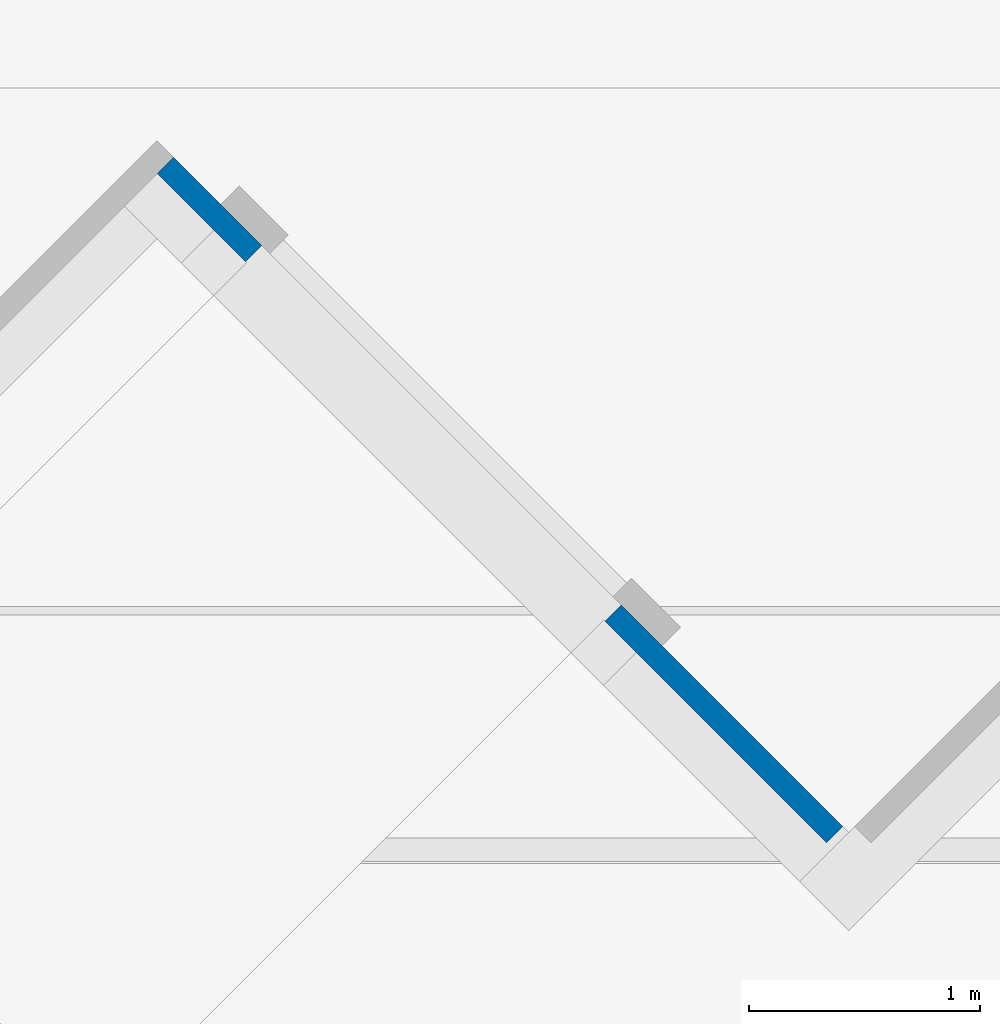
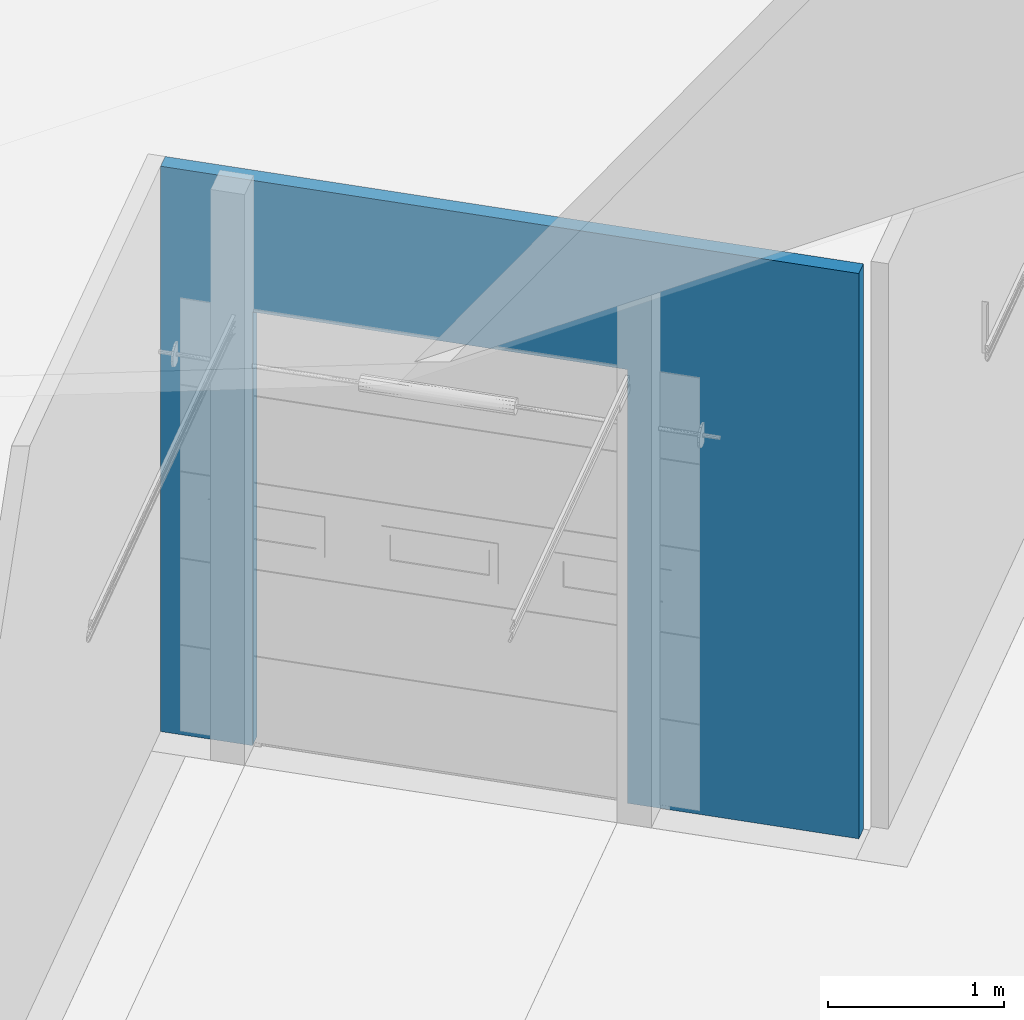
# One storey, part 26 of 64: 1 wall, 1 opening.
"""IFC2X3 building model written with IfcOpenShell, lengths in millimetres."""

import ifcopenshell
import ifcopenshell.guid

model = None  # the IFC model being written
_history = None  # IfcOwnerHistory: only IFC2X3 demands one
_inside = {}  # id of a spatial element -> (the spatial element, [elements in it])
_under = {}  # id of a project, library or spatial element -> (it, [spatial elements below it])
_declared = {}  # id of a project -> (the project, [libraries it declares])
_typed = {}  # id of a type object -> (the type object, [elements of that type])
_made_of = {}  # id of a material, layer set ... -> (it, [elements and type objects made of it])


def new_model(schema):
    """Start an empty IFC model of exactly this schema.

    Asked for "IFC4X3", IfcOpenShell would pick the latest addendum, in which some entities
    have other attributes; the version numbers below select the first issue.
    IFC2X3 requires an IfcOwnerHistory on every rooted entity: one is made here for all.
    """
    global model, _history
    if schema == "IFC4X3":
        model = ifcopenshell.file(schema_version=(4, 3, 0, 0))
    else:
        model = ifcopenshell.file(schema=schema)
    _inside.clear()
    _under.clear()
    _declared.clear()
    _typed.clear()
    _made_of.clear()
    _history = None
    if model.schema == "IFC2X3":
        org = make("IfcOrganization", Name="unknown")
        user = make(
            "IfcPersonAndOrganization",
            ThePerson=make("IfcPerson", FamilyName="unknown"),
            TheOrganization=org,
        )
        app = make(
            "IfcApplication",
            ApplicationDeveloper=org,
            Version="unknown",
            ApplicationFullName="unknown",
            ApplicationIdentifier="unknown",
        )
        _history = make(
            "IfcOwnerHistory",
            OwningUser=user,
            OwningApplication=app,
            ChangeAction="ADDED",
            CreationDate=0,
        )
    return model


def make(cls, **values):
    """One entity of the class cls with the attributes given. An attribute that is None is left unset."""
    return model.create_entity(
        cls, **{name: value for name, value in values.items() if value is not None}
    )


def entity(cls, *values):
    """Any entity or typed value of the class cls, its attributes in the order of the schema. None: left unset."""
    e = model.create_entity(cls)
    for i, value in enumerate(values):
        if value is not None:
            e[i] = value
    return e


def rooted(cls, **values):
    """An entity with a GlobalId (a new one), such as an element, a storey or a relation."""
    return make(cls, GlobalId=ifcopenshell.guid.new(), OwnerHistory=_history, **values)


def si_unit(unit_type, name, prefix=None):
    """IfcSIUnit, for example si_unit("LENGTHUNIT", "METRE", prefix="MILLI")."""
    return make("IfcSIUnit", UnitType=unit_type, Prefix=prefix, Name=name)


def converted_unit(unit_type, name, factor, base, dimensions=None, offset=None):
    """IfcConversionBasedUnit, such as the inch: factor (a typed value) times the base unit."""
    return make(
        "IfcConversionBasedUnit"
        if offset is None
        else "IfcConversionBasedUnitWithOffset",
        ConversionOffset=offset,
        Dimensions=None
        if dimensions is None
        else entity("IfcDimensionalExponents", *dimensions),
        UnitType=unit_type,
        Name=name,
        ConversionFactor=make(
            "IfcMeasureWithUnit", ValueComponent=factor, UnitComponent=base
        ),
    )


def derived_unit(unit_type, elements):
    """IfcDerivedUnit: a product of units, each with its exponent."""
    return make(
        "IfcDerivedUnit",
        Elements=[
            make("IfcDerivedUnitElement", Unit=unit, Exponent=power)
            for unit, power in elements
        ],
        UnitType=unit_type,
    )


def assignment(units):
    """IfcUnitAssignment: the units of a project."""
    return None if units is None else make("IfcUnitAssignment", Units=units)


def point(xyz):
    """IfcCartesianPoint."""
    return None if xyz is None else make("IfcCartesianPoint", Coordinates=xyz)


def direction(xyz):
    """IfcDirection."""
    return None if xyz is None else make("IfcDirection", DirectionRatios=xyz)


def frame(location, z_axis=None, x_axis=None):
    """IfcAxis2Placement3D, a coordinate frame: its origin and axes. An axis left out is left unset."""
    return make(
        "IfcAxis2Placement3D",
        Location=point(location),
        Axis=direction(z_axis),
        RefDirection=direction(x_axis),
    )


def frame_2d(location, x_axis=None):
    """IfcAxis2Placement2D, a coordinate frame in the plane: its origin and x axis."""
    return make(
        "IfcAxis2Placement2D", Location=point(location), RefDirection=direction(x_axis)
    )


def origin():
    """The frame at (0, 0, 0) with its axes left unset."""
    return frame((0.0, 0.0, 0.0))


def place(relative_to, where):
    """IfcLocalPlacement: puts the frame where relative to a parent placement (None: the world)."""
    return make(
        "IfcLocalPlacement", PlacementRelTo=relative_to, RelativePlacement=where
    )


def context(
    kind, dimensions, precision=None, world=None, true_north=None, identifier=None
):
    """IfcGeometricRepresentationContext, for example the 3D "Model" context."""
    return make(
        "IfcGeometricRepresentationContext",
        ContextIdentifier=identifier,
        ContextType=kind,
        CoordinateSpaceDimension=dimensions,
        Precision=precision,
        WorldCoordinateSystem=world,
        TrueNorth=true_north,
    )


def subcontext(parent, identifier, kind, view, scale=None):
    """IfcGeometricRepresentationSubContext, for example "Body" below "Model"."""
    return make(
        "IfcGeometricRepresentationSubContext",
        ContextIdentifier=identifier,
        ContextType=kind,
        ParentContext=parent,
        TargetScale=scale,
        TargetView=view,
    )


def project(units=None, contexts=None):
    """IfcProject with its units and contexts."""
    return rooted(
        "IfcProject",
        Name="project",
        RepresentationContexts=contexts,
        UnitsInContext=assignment(units),
    )


def spatial(cls, under=None, at=None, **own):
    """A site, building, storey or space (cls), placed at a placement, below another one or the project."""
    s = rooted(cls, ObjectPlacement=at, **own)
    if under is not None:
        _under.setdefault(under.id(), (under, []))[1].append(s)
    return s


def profile(cls, at=None, kind="AREA", **sizes):
    """A parametric profile (cls). Its sizes go by their IFC names, for example OverallWidth=200.0."""
    return make(cls, ProfileType=kind, Position=at, **sizes)


def rectangle(**sizes):
    """IfcRectangleProfileDef."""
    return profile("IfcRectangleProfileDef", **sizes)


def extrude(swept, where, along, depth):
    """IfcExtrudedAreaSolid: the profile swept, set in the frame where, extruded along a direction by depth."""
    return make(
        "IfcExtrudedAreaSolid",
        SweptArea=swept,
        Position=where,
        ExtrudedDirection=direction(along),
        Depth=depth,
    )


def shape(context_of_items, identifier, shape_type, items):
    """IfcShapeRepresentation: the items that make up one representation, for example the "Body"."""
    return make(
        "IfcShapeRepresentation",
        ContextOfItems=context_of_items,
        RepresentationIdentifier=identifier,
        RepresentationType=shape_type,
        Items=items,
    )


def material(Name=None, Category=None):
    """IfcMaterial."""
    return make("IfcMaterial", Name=Name, Category=Category)


def layer(
    of_material, thickness, ventilated=None, Name=None, Category=None, Priority=None
):
    """IfcMaterialLayer: one layer of a wall or slab, of a material (None: an air gap)."""
    return make(
        "IfcMaterialLayer",
        Material=of_material,
        LayerThickness=thickness,
        IsVentilated=ventilated,
        Name=Name,
        Category=Category,
        Priority=Priority,
    )


def layer_set(layers, Name=None):
    """IfcMaterialLayerSet."""
    return make("IfcMaterialLayerSet", MaterialLayers=layers, LayerSetName=Name)


def layer_usage(for_layer_set, set_direction, sense, offset, extent=None):
    """IfcMaterialLayerSetUsage: how a layer set lies in its element."""
    return make(
        "IfcMaterialLayerSetUsage",
        ForLayerSet=for_layer_set,
        LayerSetDirection=set_direction,
        DirectionSense=sense,
        OffsetFromReferenceLine=offset,
        ReferenceExtent=extent,
    )


def made_of(thing, what):
    """Note that an element or type object is made of a material, layer set ...; save() writes the relation."""
    if what is not None:
        _made_of.setdefault(what.id(), (what, []))[1].append(thing)
    return thing


def type_object(cls, material=None, **own):
    """A type object (cls), such as IfcWallType, which elements share."""
    return made_of(rooted(cls, **own), material)


def element(
    cls,
    number,
    at=None,
    inside=None,
    cuts=None,
    type_object=None,
    material=None,
    context=None,
    identifier="Body",
    shape_type=None,
    held_by="IfcProductDefinitionShape",
    body=None,
    shapes=None,
    **own,
):
    """One element of the class cls, such as IfcWall. Its Tag is "e" and its number.

    at: its placement. inside: the storey or other place that contains it. cuts: it is an
    opening in that element (IfcRelVoidsElement). A single representation is given by context,
    identifier, shape_type and body (its items); several are given by shapes. held_by: the class
    of the entity that holds the representations. save() writes the other relations.
    """
    e = rooted(cls, Tag="e%d" % number, ObjectPlacement=at, **own)
    if body is not None:
        shapes = [shape(context, identifier, shape_type, body)]
    if shapes is not None:
        e.Representation = make(held_by, Representations=shapes)
    if inside is not None:
        _inside.setdefault(inside.id(), (inside, []))[1].append(e)
    if cuts is not None:
        rooted(
            "IfcRelVoidsElement", RelatingBuildingElement=cuts, RelatedOpeningElement=e
        )
    if type_object is not None:
        _typed.setdefault(type_object.id(), (type_object, []))[1].append(e)
    return made_of(e, material)


def aggregate(whole, parts):
    """IfcRelAggregates: a whole, such as a stair, and the parts it consists of."""
    return rooted("IfcRelAggregates", RelatingObject=whole, RelatedObjects=parts)


def save(model, path):
    """Write the relations noted so far, then the file.

    IfcRelAggregates (storeys below a building ...), IfcRelContainedInSpatialStructure (elements
    in a storey), IfcRelDefinesByType, IfcRelAssociatesMaterial and IfcRelDeclares: one each for
    every whole, place, type object, material and project.
    """
    for whole, parts in _under.values():
        aggregate(whole, parts)
    for where, things in _inside.values():
        rooted(
            "IfcRelContainedInSpatialStructure",
            RelatedElements=things,
            RelatingStructure=where,
        )
    for kind, things in _typed.values():
        rooted("IfcRelDefinesByType", RelatedObjects=things, RelatingType=kind)
    for what, things in _made_of.values():
        rooted("IfcRelAssociatesMaterial", RelatedObjects=things, RelatingMaterial=what)
    for by, libraries in _declared.values():
        rooted("IfcRelDeclares", RelatingContext=by, RelatedDefinitions=libraries)
    model.write(path)


model = new_model("IFC2X3")

# Units and contexts
model_context = context("Model", 3, precision=0.01, world=origin(), true_north=direction((4.05803320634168e-15, -1.0)))
body_context = subcontext(model_context, "Body", "Model", "MODEL_VIEW")
ifc_project = project(units=[si_unit("LENGTHUNIT", "METRE", prefix="MILLI"), si_unit("AREAUNIT", "SQUARE_METRE"), si_unit("VOLUMEUNIT", "CUBIC_METRE"), converted_unit("PLANEANGLEUNIT", "DEGREE", entity("IfcRatioMeasure", 0.0174532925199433), si_unit("PLANEANGLEUNIT", "RADIAN"), dimensions=[0, 0, 0, 0, 0, 0, 0]), si_unit("MASSUNIT", "GRAM", prefix="KILO"), derived_unit("MASSDENSITYUNIT", [(si_unit("MASSUNIT", "GRAM", prefix="KILO"), 1), (si_unit("LENGTHUNIT", "METRE"), -3)]), si_unit("TIMEUNIT", "SECOND"), si_unit("FREQUENCYUNIT", "HERTZ"), si_unit("THERMODYNAMICTEMPERATUREUNIT", "DEGREE_CELSIUS"), derived_unit("THERMALTRANSMITTANCEUNIT", [(si_unit("MASSUNIT", "GRAM", prefix="KILO"), 1), (si_unit("THERMODYNAMICTEMPERATUREUNIT", "KELVIN"), -1), (si_unit("TIMEUNIT", "SECOND"), -3)]), derived_unit("VOLUMETRICFLOWRATEUNIT", [(si_unit("LENGTHUNIT", "METRE"), 3), (si_unit("TIMEUNIT", "SECOND"), -1)]), si_unit("ELECTRICCURRENTUNIT", "AMPERE"), si_unit("ELECTRICVOLTAGEUNIT", "VOLT"), si_unit("POWERUNIT", "WATT"), si_unit("FORCEUNIT", "NEWTON", prefix="KILO"), si_unit("ILLUMINANCEUNIT", "LUX"), si_unit("LUMINOUSFLUXUNIT", "LUMEN"), si_unit("LUMINOUSINTENSITYUNIT", "CANDELA"), derived_unit("USERDEFINED", [(si_unit("MASSUNIT", "GRAM", prefix="KILO"), -1), (si_unit("LENGTHUNIT", "METRE"), -2), (si_unit("TIMEUNIT", "SECOND"), 3), (si_unit("LUMINOUSFLUXUNIT", "LUMEN"), 1)]), derived_unit("LINEARVELOCITYUNIT", [(si_unit("LENGTHUNIT", "METRE"), 1), (si_unit("TIMEUNIT", "SECOND"), -1)]), si_unit("PRESSUREUNIT", "PASCAL"), derived_unit("USERDEFINED", [(si_unit("LENGTHUNIT", "METRE"), -2), (si_unit("MASSUNIT", "GRAM", prefix="KILO"), 1), (si_unit("TIMEUNIT", "SECOND"), -2)])], contexts=[model_context])

# Site, building, storey
site_placement = place(None, frame((927466.849349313, 583801.882853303, 0.0), z_axis=(0.0, 0.0, 1.0), x_axis=(-1.0, 0.0, 0.0)))
site = spatial("IfcSite", under=ifc_project, at=site_placement, Name="Surface", CompositionType="ELEMENT")
building_placement = place(site_placement, origin())
building = spatial("IfcBuilding", under=site, at=building_placement, CompositionType="ELEMENT")
storey_placement = place(building_placement, frame((0.0, 0.0, 44170.0)))
storey = spatial("IfcBuildingStorey", under=building, at=storey_placement, Name="Ground FFL", CompositionType="ELEMENT", Elevation=44170.0)

# Wall, opening
ifc_material = material(Name="Isopenal")
ifc_layer = layer(ifc_material, 100.0)
ifc_layer_set = layer_set([ifc_layer], Name="Basic Wall:Isopanel")
ifc_layer_usage = layer_usage(ifc_layer_set, "AXIS2", "POSITIVE", -50.0)
wall_type = type_object("IfcWallType", Name="Basic Wall:Isopanel", PredefinedType="STANDARD", material=ifc_layer_set)
wall_placement = place(storey_placement, frame((-57047.0450028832, -30671.7403210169, 0.0), z_axis=(0.0, 0.0, 1.0), x_axis=(0.707106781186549, -0.707106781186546, 0.0)))
wall = element("IfcWallStandardCase", 1, at=wall_placement, inside=storey, type_object=wall_type, material=ifc_layer_usage, Name="Basic Wall:Isopanel", ObjectType="Basic Wall:Isopanel", context=body_context, shape_type="SweptSolid", body=[
    extrude(rectangle(XDim=4096.29211661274, YDim=100.000000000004, at=frame_2d((2048.14605830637, -4.90274487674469e-13), x_axis=(-1.0, 0.0))), origin(), (0.0, 0.0, 1.0), 3910.35154955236),
])
opening_placement = place(wall_placement, frame((1356.29211661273, -50.0, 0.0)))
element("IfcOpeningElement", 2, at=opening_placement, cuts=wall, Name="6m_Roller Shutter Doors:3000(w) x 3000(h):1", ObjectType="Opening", context=body_context, shape_type="SweptSolid", body=[
    extrude(rectangle(XDim=3000.0, YDim=2200.0, at=frame_2d((1500.0, 1100.0), x_axis=(1.0, 0.0))), frame((0.0, 0.0, 0.0), z_axis=(0.0, 1.0, 0.0), x_axis=(0.0, 0.0, 1.0)), (0.0, 0.0, 1.0), 100.0),
])

save(model, "model.ifc")
